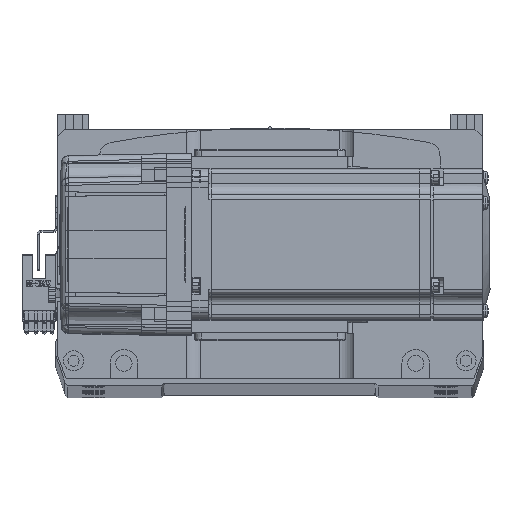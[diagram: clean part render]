
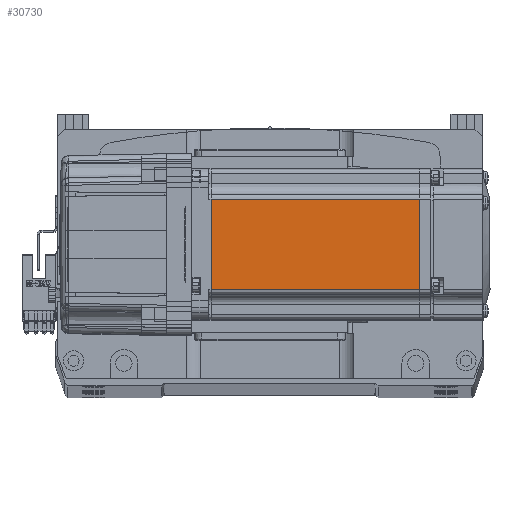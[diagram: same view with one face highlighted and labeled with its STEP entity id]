
A CAD part, top view. The second image highlights one B-rep face of the part: STEP entity #30730.
In plain terms, the highlighted planar face has unit normal (0, 0, 1) as drawn and (0, -1, 0) by its records, which use the part's own axes.
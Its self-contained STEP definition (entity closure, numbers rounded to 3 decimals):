
#1511 = VECTOR ( 'NONE', #39546, 1000. ) ;
#1716 = CARTESIAN_POINT ( 'NONE',  ( -6.5, -30., -18. ) ) ;
#1934 = CARTESIAN_POINT ( 'NONE',  ( -90.45, -30., 18. ) ) ;
#5694 = ORIENTED_EDGE ( 'NONE', *, *, #45463, .T. ) ;
#7902 = DIRECTION ( 'NONE',  ( 0., -1., 0. ) ) ;
#12639 = VECTOR ( 'NONE', #33711, 1000. ) ;
#12979 = VERTEX_POINT ( 'NONE', #24444 ) ;
#13309 = EDGE_CURVE ( 'NONE', #12979, #68733, #35788, .T. ) ;
#15642 = VERTEX_POINT ( 'NONE', #1934 ) ;
#17008 = LINE ( 'NONE', #21462, #60484 ) ;
#19076 = DIRECTION ( 'NONE',  ( 0., 0., -1. ) ) ;
#21462 = CARTESIAN_POINT ( 'NONE',  ( -6.5, -30., 18. ) ) ;
#24444 = CARTESIAN_POINT ( 'NONE',  ( -90.45, -30., -18. ) ) ;
#26054 = EDGE_CURVE ( 'NONE', #51249, #15642, #17008, .T. ) ;
#30327 = EDGE_CURVE ( 'NONE', #15642, #12979, #60008, .T. ) ;
#30629 = CARTESIAN_POINT ( 'NONE',  ( -90.45, -30., -25. ) ) ;
#30730 = ADVANCED_FACE ( 'NONE', ( #68434 ), #55517, .T. ) ;
#33711 = DIRECTION ( 'NONE',  ( 0., 0., 1. ) ) ;
#35513 = ORIENTED_EDGE ( 'NONE', *, *, #30327, .T. ) ;
#35788 = LINE ( 'NONE', #1716, #1511 ) ;
#36628 = CARTESIAN_POINT ( 'NONE',  ( -7.75, -30., 18. ) ) ;
#38222 = DIRECTION ( 'NONE',  ( -1., 0., 0. ) ) ;
#39546 = DIRECTION ( 'NONE',  ( 1., 0., 0. ) ) ;
#41331 = DIRECTION ( 'NONE',  ( 0., 0., -1. ) ) ;
#41624 = VECTOR ( 'NONE', #41331, 1000. ) ;
#45130 = AXIS2_PLACEMENT_3D ( 'NONE', #60943, #7902, #19076 ) ;
#45463 = EDGE_CURVE ( 'NONE', #68733, #51249, #67078, .T. ) ;
#49788 = EDGE_LOOP ( 'NONE', ( #5694, #52338, #35513, #67402 ) ) ;
#51249 = VERTEX_POINT ( 'NONE', #36628 ) ;
#52114 = CARTESIAN_POINT ( 'NONE',  ( -7.75, -30., -18. ) ) ;
#52338 = ORIENTED_EDGE ( 'NONE', *, *, #26054, .T. ) ;
#55517 = PLANE ( 'NONE',  #45130 ) ;
#60008 = LINE ( 'NONE', #30629, #41624 ) ;
#60484 = VECTOR ( 'NONE', #38222, 1000. ) ;
#60943 = CARTESIAN_POINT ( 'NONE',  ( -6.5, -30., -25. ) ) ;
#66485 = CARTESIAN_POINT ( 'NONE',  ( -7.75, -30., -25. ) ) ;
#67078 = LINE ( 'NONE', #66485, #12639 ) ;
#67402 = ORIENTED_EDGE ( 'NONE', *, *, #13309, .T. ) ;
#68434 = FACE_OUTER_BOUND ( 'NONE', #49788, .T. ) ;
#68733 = VERTEX_POINT ( 'NONE', #52114 ) ;
